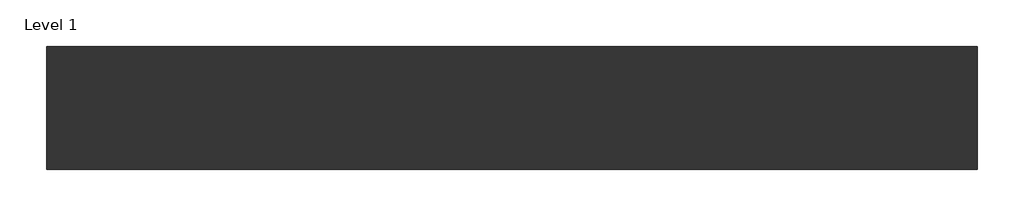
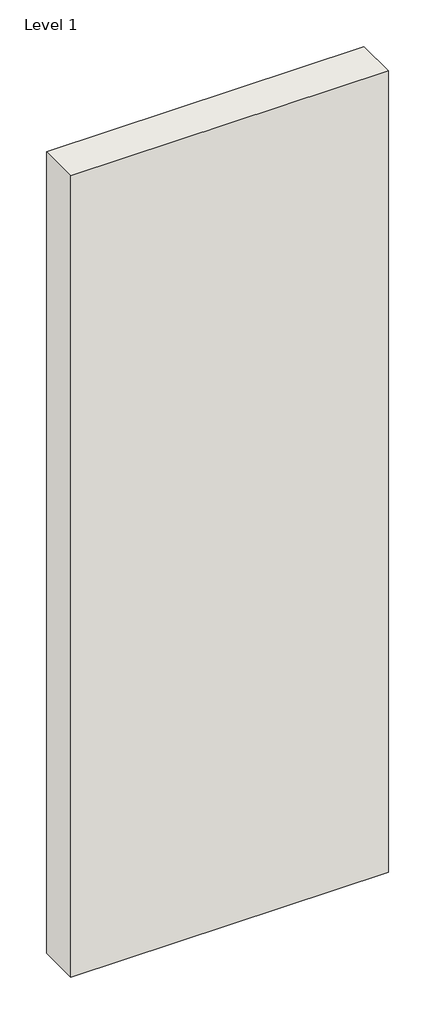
# One storey: 1 wall.
"""IFC4 building model written with IfcOpenShell, lengths in millimetres."""

from ifc_helpers import new_model, si_unit, origin, origin_with_axes, place, context, project, spatial, polyline, outline, extrude, element, save

model = new_model("IFC4")

# Units and contexts
model_context = context("Model", 3, world=origin())
ifc_project = project(units=[si_unit("LENGTHUNIT", "METRE", prefix="MILLI")], contexts=[model_context])

# Site, building, storey
site = spatial("IfcSite", under=ifc_project)
building = spatial("IfcBuilding", under=site)
storey = spatial("IfcBuildingStorey", under=building, Name="Level 1", Elevation=0.0)

# Wall
placement = place(None, origin())
element("IfcWall", 1, ObjectType="Tabique Doble – Placo® 158(48) 2xBA13 + 48LM + BA13 + 48LM + 2xBA13 c/600 - 59,1 dBA", at=placement, inside=storey, context=model_context, shape_type="SweptSolid", body=[
    extrude(outline(polyline([(-28676.4711674, -82294.1470389), (-29876.4711674, -82294.1470389), (-29876.4711674, -82135.6470389), (-28676.4711674, -82135.6470389), (-28676.4711674, -82294.1470389)])), origin_with_axes(), (0.0, 0.0, 1.0), 3200.0),
])

save(model, "model.ifc")
